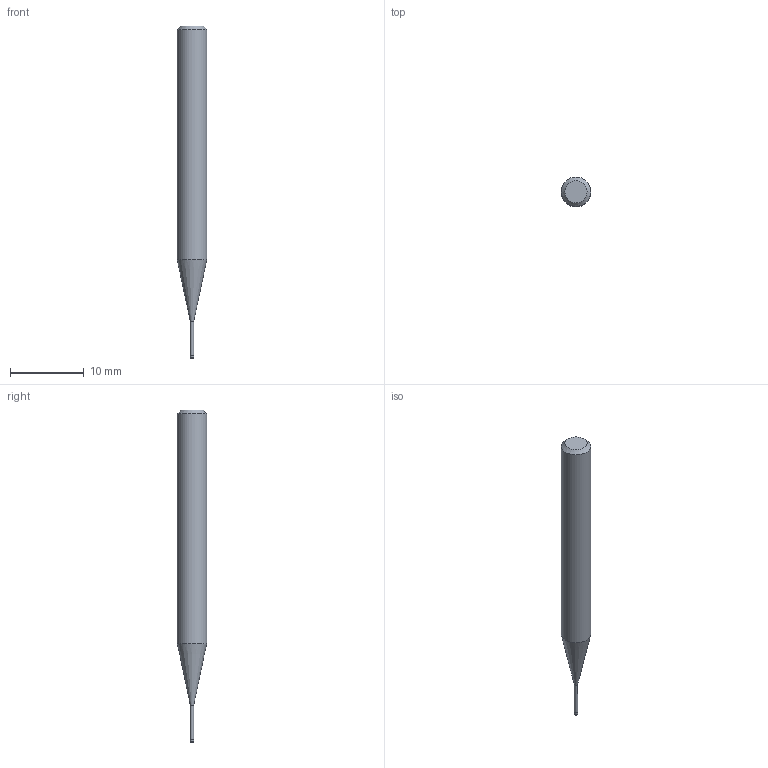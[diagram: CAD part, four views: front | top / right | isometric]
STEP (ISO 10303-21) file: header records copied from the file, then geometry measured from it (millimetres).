
FILE_DESCRIPTION((''),'2;1');
FILE_NAME('C:\Users\nsx150\AppData\Local\Temp\Mastercam 2021\3SYKECWX22\TEMP.step','2021-04-22T09:45:29',(''),(''),'STEP Write','Mastercam 2021 ... CNC Software, Inc.','');
FILE_SCHEMA(('AUTOMOTIVE_DESIGN'));
Length unit declared in the file: millimetre
Products named in the file (1): None
Bounding box: 4 x 4 x 45 mm (x, y, z)
Volume: 436.8 mm3; surface area: 474 mm2
Topology: 2 solids, 2 shells, 10 faces, 14 edges, 8 vertices
Faces by surface type: plane 4, cylinder 3, cone 2, torus 1
Full cylindrical faces by diameter (mm): 0.46 x1, 0.5 x1, 4 x1
Entity records: 232 total; most frequent: DIRECTION 40, CARTESIAN_POINT 28, AXIS2_PLACEMENT_3D 20, ORIENTED_EDGE 16, EDGE_LOOP 16, STYLED_ITEM 13, ADVANCED_FACE 10, FACE_BOUND 10
